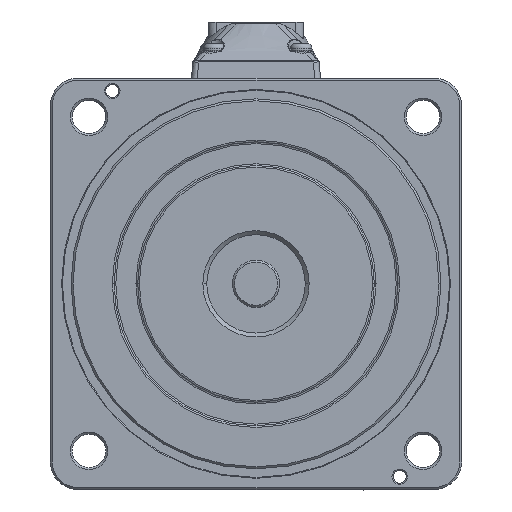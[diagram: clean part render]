
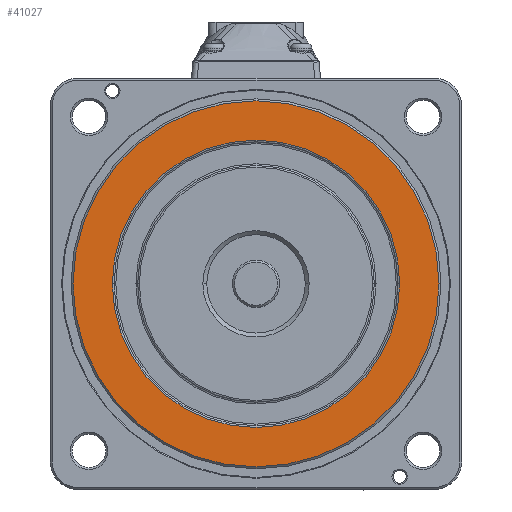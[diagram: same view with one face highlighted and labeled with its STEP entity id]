
A CAD part, top view. The second image highlights one B-rep face of the part: STEP entity #41027.
In plain terms, the highlighted planar face has unit normal (0, 0, 1) as drawn and (0, 0, -1) by its records, which use the part's own axes.
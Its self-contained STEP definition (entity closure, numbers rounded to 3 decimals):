
#616 = CARTESIAN_POINT ( 'NONE',  ( 0., 0., -12. ) ) ;
#4765 = PLANE ( 'NONE',  #35141 ) ;
#5787 = EDGE_LOOP ( 'NONE', ( #59896, #55603 ) ) ;
#7644 = DIRECTION ( 'NONE',  ( 0., 0., -1. ) ) ;
#8329 = CARTESIAN_POINT ( 'NONE',  ( -36.5, 0., -12. ) ) ;
#10920 = DIRECTION ( 'NONE',  ( 0., 0., -1. ) ) ;
#11658 = CARTESIAN_POINT ( 'NONE',  ( -46.5, 0., -12. ) ) ;
#12780 = CARTESIAN_POINT ( 'NONE',  ( 0., 0., -12. ) ) ;
#14127 = EDGE_CURVE ( 'NONE', #59591, #48857, #21968, .T. ) ;
#14187 = DIRECTION ( 'NONE',  ( 1., 0., 0. ) ) ;
#14976 = FACE_BOUND ( 'NONE', #5787, .T. ) ;
#15349 = EDGE_CURVE ( 'NONE', #35825, #58076, #59092, .T. ) ;
#18017 = CARTESIAN_POINT ( 'NONE',  ( 36.5, 0., -12. ) ) ;
#21418 = DIRECTION ( 'NONE',  ( 0., 0., 1. ) ) ;
#21968 = CIRCLE ( 'NONE', #45996, 46.5 ) ;
#23499 = EDGE_CURVE ( 'NONE', #48857, #59591, #35858, .T. ) ;
#26619 = DIRECTION ( 'NONE',  ( 1., 0., 0. ) ) ;
#27415 = EDGE_LOOP ( 'NONE', ( #36609, #47765 ) ) ;
#30737 = CARTESIAN_POINT ( 'NONE',  ( 0., 0., -12. ) ) ;
#31138 = AXIS2_PLACEMENT_3D ( 'NONE', #30737, #10920, #26619 ) ;
#35141 = AXIS2_PLACEMENT_3D ( 'NONE', #62105, #46417, #66908 ) ;
#35825 = VERTEX_POINT ( 'NONE', #18017 ) ;
#35837 = FACE_OUTER_BOUND ( 'NONE', #27415, .T. ) ;
#35858 = CIRCLE ( 'NONE', #57683, 46.5 ) ;
#36477 = DIRECTION ( 'NONE',  ( 1., 0., 0. ) ) ;
#36609 = ORIENTED_EDGE ( 'NONE', *, *, #23499, .F. ) ;
#39447 = AXIS2_PLACEMENT_3D ( 'NONE', #12780, #7644, #55446 ) ;
#41027 = ADVANCED_FACE ( 'NONE', ( #14976, #35837 ), #4765, .F. ) ;
#41846 = DIRECTION ( 'NONE',  ( 0., 0., 1. ) ) ;
#45996 = AXIS2_PLACEMENT_3D ( 'NONE', #67123, #41846, #14187 ) ;
#46417 = DIRECTION ( 'NONE',  ( 0., 0., 1. ) ) ;
#47765 = ORIENTED_EDGE ( 'NONE', *, *, #14127, .F. ) ;
#48857 = VERTEX_POINT ( 'NONE', #51968 ) ;
#51968 = CARTESIAN_POINT ( 'NONE',  ( 46.5, 0., -12. ) ) ;
#55446 = DIRECTION ( 'NONE',  ( 1., 0., 0. ) ) ;
#55603 = ORIENTED_EDGE ( 'NONE', *, *, #63463, .F. ) ;
#57683 = AXIS2_PLACEMENT_3D ( 'NONE', #616, #21418, #36477 ) ;
#58076 = VERTEX_POINT ( 'NONE', #8329 ) ;
#59092 = CIRCLE ( 'NONE', #39447, 36.5 ) ;
#59591 = VERTEX_POINT ( 'NONE', #11658 ) ;
#59896 = ORIENTED_EDGE ( 'NONE', *, *, #15349, .F. ) ;
#60568 = CIRCLE ( 'NONE', #31138, 36.5 ) ;
#62105 = CARTESIAN_POINT ( 'NONE',  ( 0., 0., -12. ) ) ;
#63463 = EDGE_CURVE ( 'NONE', #58076, #35825, #60568, .T. ) ;
#66908 = DIRECTION ( 'NONE',  ( 1., 0., 0. ) ) ;
#67123 = CARTESIAN_POINT ( 'NONE',  ( 0., 0., -12. ) ) ;
